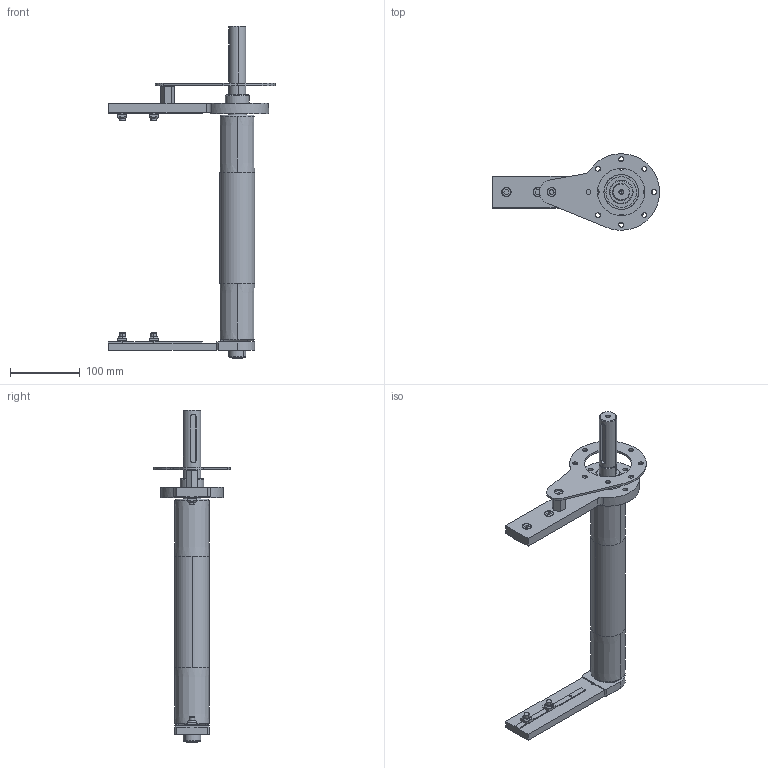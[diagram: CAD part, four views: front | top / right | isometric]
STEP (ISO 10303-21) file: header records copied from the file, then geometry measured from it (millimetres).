
FILE_DESCRIPTION (( 'STEP AP203' ), '1' );
FILE_NAME ('084.050.KD.49.300.STEP', '2015-06-03T08:55:57', ( '' ), ( '' ), 'SwSTEP 2.0', 'SolidWorks 2012', '' );
FILE_SCHEMA (( 'CONFIG_CONTROL_DESIGN' ));
Length unit declared in the file: millimetre
Products named in the file (1): 084.050.KD.49.300
Bounding box: 240 x 110 x 477 mm (x, y, z)
Volume: 619626.4 mm3; surface area: 302602.6 mm2
Topology: 24 solids, 25 shells, 607 faces, 1526 edges, 990 vertices
Faces by surface type: plane 251, cylinder 228, torus 68, cone 51, sphere 9
Entity records: 19005 total; most frequent: CARTESIAN_POINT 3773, DIRECTION 3400, ORIENTED_EDGE 3008, EDGE_CURVE 1504, AXIS2_PLACEMENT_3D 1354, VERTEX_POINT 979, CIRCLE 747, EDGE_LOOP 725
